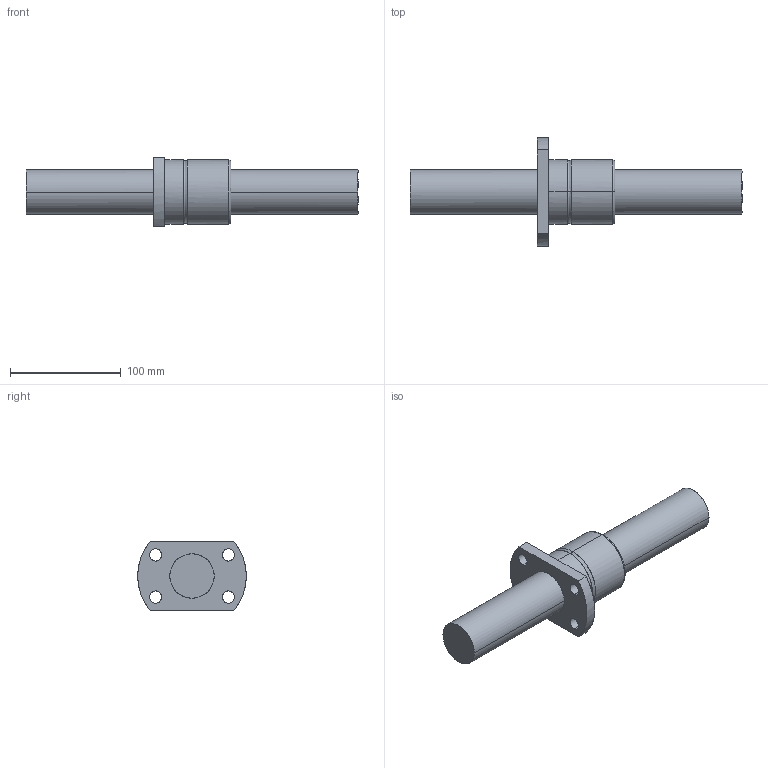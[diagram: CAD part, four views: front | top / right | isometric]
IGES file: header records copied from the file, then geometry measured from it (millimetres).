
Global section: file name: No Iges File Name specified; native system: AutoDesk Inventor R10; preprocessor: AutoDesk Inventor Iges Exporter R10; author: No Author specified; organization: No Organization specified; date: 20101224.154356; units: millimetre
Bounding box: 300 x 97.81 x 62 mm (x, y, z)
Surface area: 72124.3 mm2 (no closed solid volume)
Topology: 0 solids, 0 shells, 33 faces, 238 edges, 238 vertices
Faces by surface type: bspline 33
